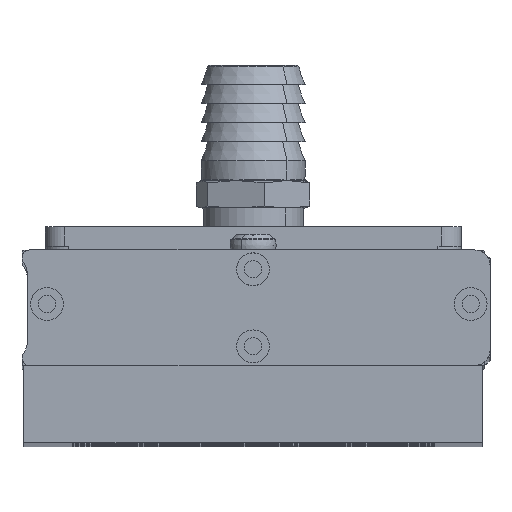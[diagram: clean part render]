
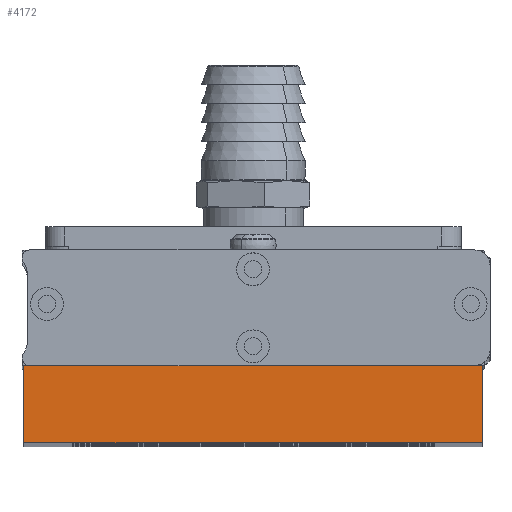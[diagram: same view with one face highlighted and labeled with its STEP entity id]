
A CAD part, top view. The second image highlights one B-rep face of the part: STEP entity #4172.
In plain terms, the highlighted planar face has unit normal (0, 0, 1).
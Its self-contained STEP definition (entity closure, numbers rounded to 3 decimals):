
#662 = CARTESIAN_POINT ( 'NONE',  ( -59.5, -15., 297. ) ) ;
#1591 = EDGE_CURVE ( 'NONE', #31627, #18591, #33762, .T. ) ;
#1920 = CARTESIAN_POINT ( 'NONE',  ( 59.5, -35., 297. ) ) ;
#2346 = DIRECTION ( 'NONE',  ( 1., 0., 0. ) ) ;
#3229 = DIRECTION ( 'NONE',  ( 0., -1., 0. ) ) ;
#3914 = CARTESIAN_POINT ( 'NONE',  ( -59.5, -15., 297. ) ) ;
#4172 = ADVANCED_FACE ( 'NONE', ( #36930 ), #28639, .F. ) ;
#5059 = VERTEX_POINT ( 'NONE', #11534 ) ;
#5332 = DIRECTION ( 'NONE',  ( 1., 0., 0. ) ) ;
#7086 = ORIENTED_EDGE ( 'NONE', *, *, #1591, .T. ) ;
#7205 = VECTOR ( 'NONE', #3229, 1000. ) ;
#8741 = AXIS2_PLACEMENT_3D ( 'NONE', #662, #23367, #23107 ) ;
#11534 = CARTESIAN_POINT ( 'NONE',  ( 59.5, -15., 297. ) ) ;
#12116 = EDGE_CURVE ( 'NONE', #5059, #18591, #22414, .T. ) ;
#12625 = CARTESIAN_POINT ( 'NONE',  ( -59.5, -35., 297. ) ) ;
#13968 = EDGE_CURVE ( 'NONE', #35543, #5059, #22218, .T. ) ;
#18591 = VERTEX_POINT ( 'NONE', #1920 ) ;
#22218 = LINE ( 'NONE', #30302, #28953 ) ;
#22223 = EDGE_CURVE ( 'NONE', #35543, #31627, #23180, .T. ) ;
#22414 = LINE ( 'NONE', #23434, #7205 ) ;
#23107 = DIRECTION ( 'NONE',  ( 0., 1., 0. ) ) ;
#23180 = LINE ( 'NONE', #3914, #30349 ) ;
#23367 = DIRECTION ( 'NONE',  ( 0., 0., -1. ) ) ;
#23434 = CARTESIAN_POINT ( 'NONE',  ( 59.5, -15., 297. ) ) ;
#25068 = CARTESIAN_POINT ( 'NONE',  ( -59.5, -35., 297. ) ) ;
#27259 = ORIENTED_EDGE ( 'NONE', *, *, #12116, .F. ) ;
#28639 = PLANE ( 'NONE',  #8741 ) ;
#28879 = VECTOR ( 'NONE', #2346, 1000. ) ;
#28953 = VECTOR ( 'NONE', #5332, 1000. ) ;
#29525 = ORIENTED_EDGE ( 'NONE', *, *, #22223, .T. ) ;
#30231 = EDGE_LOOP ( 'NONE', ( #7086, #27259, #32719, #29525 ) ) ;
#30302 = CARTESIAN_POINT ( 'NONE',  ( -59.5, -15., 297. ) ) ;
#30349 = VECTOR ( 'NONE', #35105, 1000. ) ;
#31270 = CARTESIAN_POINT ( 'NONE',  ( -59.5, -15., 297. ) ) ;
#31627 = VERTEX_POINT ( 'NONE', #12625 ) ;
#32719 = ORIENTED_EDGE ( 'NONE', *, *, #13968, .F. ) ;
#33762 = LINE ( 'NONE', #25068, #28879 ) ;
#35105 = DIRECTION ( 'NONE',  ( 0., -1., 0. ) ) ;
#35543 = VERTEX_POINT ( 'NONE', #31270 ) ;
#36930 = FACE_OUTER_BOUND ( 'NONE', #30231, .T. ) ;
